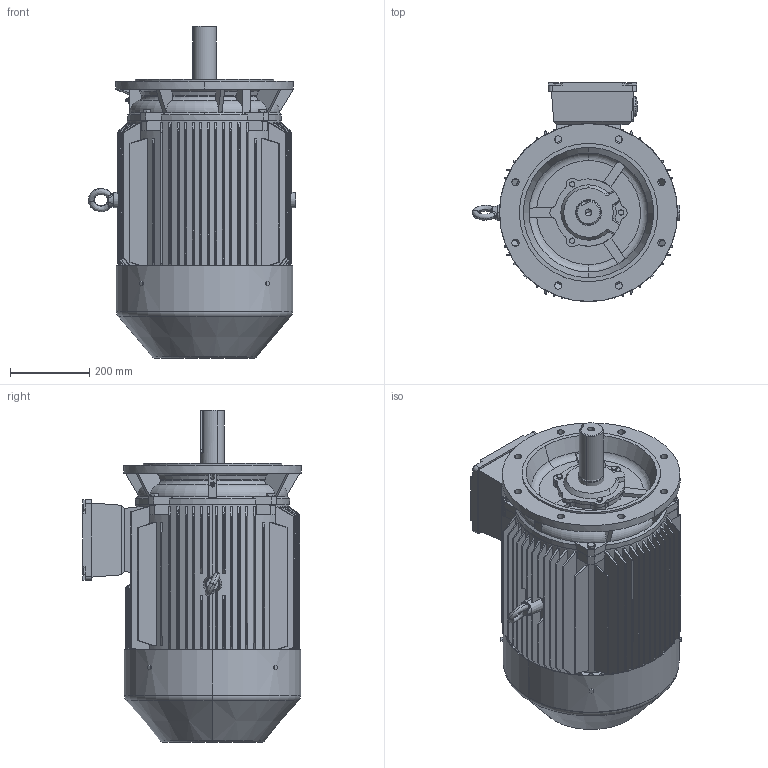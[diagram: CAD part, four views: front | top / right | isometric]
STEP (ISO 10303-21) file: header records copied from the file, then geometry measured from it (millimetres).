
FILE_DESCRIPTION (( 'STEP AP203' ), '1' );
FILE_NAME ('TE3-225M-4,6,8 B5.STEP', '2019-12-23T02:14:25', ( '微软用户' ), ( '微软中国' ), 'SwSTEP 2.0', 'SolidWorks 2012', '' );
FILE_SCHEMA (( 'CONFIG_CONTROL_DESIGN' ));
Products named in the file (14): TE3-225M-4,6,8 B5; 蚐戚; Y2-200~225 P24諉盄碟; hexagon head bolts-full thread gb_GB_FASTENER_BOLT_STBAB A M8X16-N; 8EJ.353.10054GX200~225P24諉盄碟裔; 8EJ.354.594Y2-200~225P24諉盄碟釱; eyebolts gb_GB_FASTENER_SCREWS_FRS M16-N; YX3-225 瑞欶; YE3-225-4,6,8（轴伸）; hex head bolts-full thread grade c gb_GB_FASTENER_BOLT_HHBFTC M12X25-N; hex head bolts-full thread grade c gb_GB_FASTENER_BOLT_HHBFTC M8X25-N; Y2-225-4,6,8轴承外盖（轴伸端）; Y2-225-4,6,8芧埽傷裔017.00082; Y2-225M V1儂釱
Assembly tree (21 placements, depth 3):
  TE3-225M-4,6,8 B5
    Y2-225M V1儂釱
    Y2-225-4,6,8芧埽傷裔017.00082
    Y2-225-4,6,8轴承外盖（轴伸端）
    hex head bolts-full thread grade c gb_GB_FASTENER_BOLT_HHBFTC M8X25-N  x3
    hex head bolts-full thread grade c gb_GB_FASTENER_BOLT_HHBFTC M12X25-N  x4
    YE3-225-4,6,8（轴伸）
    YX3-225 瑞欶
    eyebolts gb_GB_FASTENER_SCREWS_FRS M16-N
    Y2-200~225 P24諉盄碟
      8EJ.354.594Y2-200~225P24諉盄碟釱
      8EJ.353.10054GX200~225P24諉盄碟裔
      hexagon head bolts-full thread gb_GB_FASTENER_BOLT_STBAB A M8X16-N  x4
    蚐戚
Bounding box: 525.2 x 554 x 840 mm (x, y, z)
Volume: 61599874.3 mm3; surface area: 3741175.5 mm2
Topology: 21 solids, 21 shells, 2892 faces, 7134 edges, 4677 vertices
Faces by surface type: plane 2082, cylinder 357, cone 238, bspline 128, torus 81, sphere 6
Entity records: 95199 total; most frequent: CARTESIAN_POINT 30392, ORIENTED_EDGE 13394, DIRECTION 11824, EDGE_CURVE 6697, LINE 4950, VECTOR 4950, VERTEX_POINT 4414, AXIS2_PLACEMENT_3D 3437
